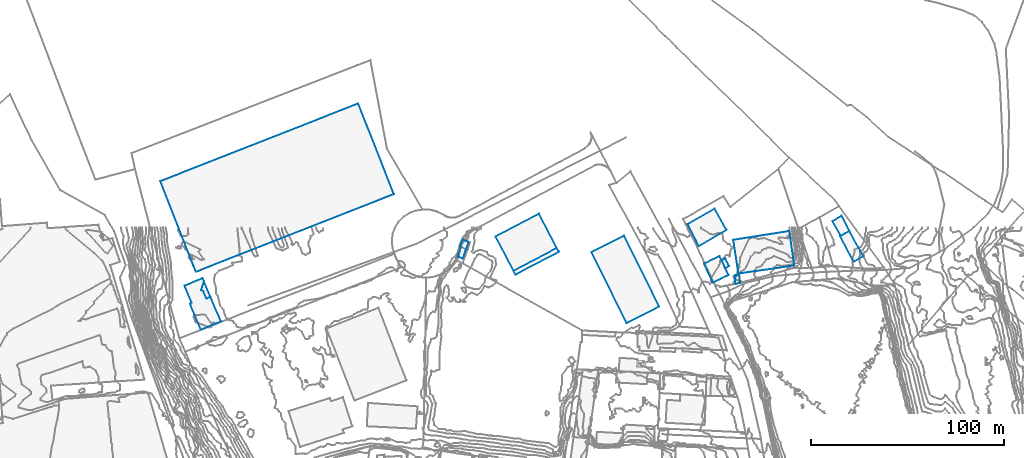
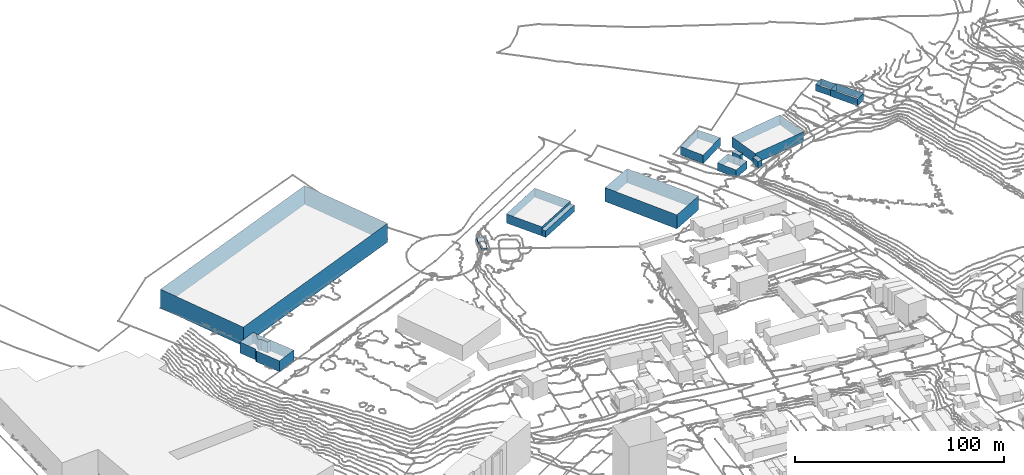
# Not in any storey, part 66 of 419: 14 walls.
"""IFC2X3 model written with IfcOpenShell, lengths in metres."""

from ifc_helpers import new_model, si_unit, frame, origin_with_axes, place, context, subcontext, project, faceted_brep, element, save


model = new_model("IFC2X3")

# Units and contexts
model_context = context("Model", 3, precision=1e-05, world=origin_with_axes())
body_context = subcontext(model_context, "Body", "Model", "MODEL_VIEW")
ifc_project = project(units=[si_unit("AREAUNIT", "SQUARE_METRE"), si_unit("LENGTHUNIT", "METRE")], contexts=[model_context])

# Walls
wall_1_placement = place(None, frame((662.4920204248, 1027.9976909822, 61.445799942), z_axis=(0.0, 0.0, 1.0), x_axis=(1.0, 0.0, 0.0)))
element("IfcWall", 1, at=wall_1_placement, Name="Mur 0", context=body_context, shape_type="Brep", body=[
    faceted_brep([(0.0, 0.0, 4.054200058), (4.7999999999, 2.6000000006, 4.054200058), (0.0, 0.0, 0.0), (4.7999999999, 2.6000000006, 0.0), (7.1, -13.3999999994, 4.054200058), (7.1, -13.3999999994, 0.0), (12.0, -10.5, 4.054200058), (12.0, -10.5, 0.0)], [[[0, 1, 2]], [[2, 1, 3]], [[4, 0, 5]], [[5, 0, 2]], [[1, 6, 3]], [[3, 6, 7]], [[6, 4, 7]], [[7, 4, 5]]]),
])
wall_2_placement = place(None, frame((600.8920204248, 1015.5976909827, 52.0179985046), z_axis=(0.0, 0.0, 1.0), x_axis=(1.0, 0.0, 0.0)))
element("IfcWall", 2, at=wall_2_placement, Name="Mur 0", context=body_context, shape_type="Brep", body=[
    faceted_brep([(3.8999999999, -3.2000000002, 6.0), (1.8999999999, -4.2999999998, 6.0), (3.8999999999, -3.2000000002, 0.0), (1.8999999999, -4.2999999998, 0.0), (2.0, 0.7000000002, 6.0), (2.0, 0.7000000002, 0.0), (0.0, 0.0, 6.0), (0.0, 0.0, 0.0)], [[[0, 1, 2]], [[2, 1, 3]], [[4, 0, 5]], [[5, 0, 2]], [[1, 6, 3]], [[3, 6, 7]], [[6, 4, 7]], [[7, 4, 5]]]),
])
wall_3_placement = place(None, frame((607.8920204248, 1007.5976909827, 53.5594993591), z_axis=(0.0, 0.0, 1.0), x_axis=(1.0, 0.0, 0.0)))
element("IfcWall", 3, at=wall_3_placement, Name="Mur 0", context=body_context, shape_type="Brep", body=[
    faceted_brep([(2.7, -3.9000000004, 3.9405006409), (0.2, -4.5, 3.9405006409), (2.7, -3.9000000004, 0.0), (0.2, -4.5, 0.0), (2.2, 0.2000000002, 3.9405006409), (2.2, 0.2000000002, 0.0), (0.0, 0.0, 3.9405006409), (0.0, 0.0, 0.0)], [[[0, 1, 2]], [[2, 1, 3]], [[4, 0, 5]], [[5, 0, 2]], [[1, 6, 3]], [[3, 6, 7]], [[6, 4, 7]], [[7, 4, 5]]]),
])
wall_4_placement = place(None, frame((492.8920204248, 1009.9976909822, 50.3296007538), z_axis=(0.0, 0.0, 1.0), x_axis=(1.0, 0.0, 0.0)))
element("IfcWall", 4, at=wall_4_placement, Name="Mur 0", context=body_context, shape_type="Brep", body=[
    faceted_brep([(1.0, -2.0, 3.8703992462), (0.0, 0.0, 3.8703992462), (1.0, -2.0, 0.0), (0.0, 0.0, 0.0), (23.6, 9.8000000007, 3.8703992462), (23.6, 9.8000000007, 0.0), (22.5, 11.8000000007, 3.8703992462), (22.5, 11.8000000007, 0.0)], [[[0, 1, 2]], [[2, 1, 3]], [[4, 0, 5]], [[5, 0, 2]], [[1, 6, 3]], [[3, 6, 7]], [[6, 4, 7]], [[7, 4, 5]]]),
])
wall_5_placement = place(None, frame((322.0920204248, 1002.1976909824, 46.5999984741), z_axis=(0.0, 0.0, 1.0), x_axis=(1.0, 0.0, 0.0)))
element("IfcWall", 5, at=wall_5_placement, Name="Mur 0", context=body_context, shape_type="Brep", body=[
    faceted_brep([(11.4, -6.5999999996, 6.4000015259), (13.5, -5.7999999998, 6.4000015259), (11.4, -6.5999999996, 0.0), (13.5, -5.7999999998, 0.0), (9.8, -3.0, 6.4000015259), (9.8, -3.0, 0.0), (8.6, -2.2999999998, 6.4000015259), (8.6, -2.2999999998, 0.0), (10.1, 2.2000000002, 6.4000015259), (10.1, 2.2000000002, 0.0), (9.4, 3.9000000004, 6.4000015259), (9.4, 3.9000000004, 0.0), (0.0, 0.0, 6.4000015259), (0.0, 0.0, 0.0), (3.7, -8.7999999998, 6.4000015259), (3.7, -8.7999999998, 0.0), (3.0, -9.2999999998, 6.4000015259), (3.0, -9.2999999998, 0.0), (3.1, -10.2000000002, 6.4000015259), (3.1, -10.2000000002, 0.0), (8.5, -22.8999999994, 6.4000015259), (8.5, -22.8999999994, 0.0), (18.9, -18.5, 6.4000015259), (18.9, -18.5, 0.0)], [[[0, 1, 2]], [[2, 1, 3]], [[4, 0, 5]], [[5, 0, 2]], [[6, 4, 7]], [[7, 4, 5]], [[8, 6, 9]], [[9, 6, 7]], [[10, 8, 11]], [[11, 8, 9]], [[12, 10, 13]], [[13, 10, 11]], [[14, 12, 15]], [[15, 12, 13]], [[16, 14, 17]], [[17, 14, 15]], [[18, 16, 19]], [[19, 16, 17]], [[20, 18, 21]], [[21, 18, 19]], [[1, 22, 3]], [[3, 22, 23]], [[22, 20, 23]], [[23, 20, 21]]]),
])
wall_6_placement = place(None, frame((330.6920204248, 999.8976909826, 46.5999984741), z_axis=(0.0, 0.0, 1.0), x_axis=(1.0, 0.0, 0.0)))
element("IfcWall", 6, at=wall_6_placement, Name="Mur 0", context=body_context, shape_type="Brep", body=[
    faceted_brep([(0.0, 0.0, 6.3000015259), (1.5, 4.5, 6.3000015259), (0.0, 0.0, 0.0), (1.5, 4.5, 0.0), (1.2000000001, -0.7000000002, 6.3000015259), (1.2000000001, -0.7000000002, 0.0), (2.8, -4.2999999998, 6.3000015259), (2.8, -4.2999999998, 0.0), (4.9, -3.5, 6.3000015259), (4.9, -3.5, 0.0)], [[[0, 1, 2]], [[2, 1, 3]], [[4, 0, 5]], [[5, 0, 2]], [[6, 4, 7]], [[7, 4, 5]], [[1, 8, 3]], [[3, 8, 9]], [[8, 6, 9]], [[9, 6, 7]]]),
])
wall_7_placement = place(None, frame((483.5920204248, 1027.7976909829, 50.3763996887), z_axis=(0.0, 0.0, 1.0), x_axis=(1.0, 0.0, 0.0)))
element("IfcWall", 7, at=wall_7_placement, Name="Mur 0", context=body_context, shape_type="Brep", body=[
    faceted_brep([(31.8, -6.0, 5.3236003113), (9.3, -17.8000000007, 5.3236003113), (31.8, -6.0, 0.0), (9.3, -17.8000000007, 0.0), (22.5, 11.7999999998, 5.3236003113), (22.5, 11.7999999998, 0.0), (0.0, 0.0, 5.3236003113), (0.0, 0.0, 0.0)], [[[0, 1, 2]], [[2, 1, 3]], [[4, 0, 5]], [[5, 0, 2]], [[1, 6, 3]], [[3, 6, 7]], [[6, 4, 7]], [[7, 4, 5]]]),
])
wall_8_placement = place(None, frame((583.3920204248, 1034.1976909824, 51.1739997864), z_axis=(0.0, 0.0, 1.0), x_axis=(1.0, 0.0, 0.0)))
element("IfcWall", 8, at=wall_8_placement, Name="Mur 0", context=body_context, shape_type="Brep", body=[
    faceted_brep([(20.1, -3.0, 4.9260002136), (5.7, -11.5, 4.9260002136), (20.1, -3.0, 0.0), (5.7, -11.5, 0.0), (13.8999999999, 8.0, 4.9260002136), (13.8999999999, 8.0, 0.0), (0.0, 0.0, 4.9260002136), (0.0, 0.0, 0.0)], [[[0, 1, 2]], [[2, 1, 3]], [[4, 0, 5]], [[5, 0, 2]], [[1, 6, 3]], [[3, 6, 7]], [[6, 4, 7]], [[7, 4, 5]]]),
])
wall_9_placement = place(None, frame((606.9920204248, 1025.9976909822, 52.4879997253), z_axis=(0.0, 0.0, 1.0), x_axis=(1.0, 0.0, 0.0)))
element("IfcWall", 9, at=wall_9_placement, Name="Mur 0", context=body_context, shape_type="Brep", body=[
    faceted_brep([(2.7, -17.5, 5.9120002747), (0.0, 0.0, 5.9120002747), (2.7, -17.5, 0.0), (0.0, 0.0, 0.0), (31.7, -13.2999999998, 5.9120002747), (31.7, -13.2999999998, 0.0), (29.1, 4.6000000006, 5.9120002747), (29.1, 4.6000000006, 0.0)], [[[0, 1, 2]], [[2, 1, 3]], [[4, 0, 5]], [[5, 0, 2]], [[1, 6, 3]], [[3, 6, 7]], [[6, 4, 7]], [[7, 4, 5]]]),
])
wall_10_placement = place(None, frame((309.5920204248, 1056.4976909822, 44.3300018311), z_axis=(0.0, 0.0, 1.0), x_axis=(1.0, 0.0, 0.0)))
element("IfcWall", 10, at=wall_10_placement, Name="Mur 0", context=body_context, shape_type="Brep", body=[
    faceted_brep([(18.4, -47.0999999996, 10.9699981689), (0.0, 0.0, 10.9699981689), (18.4, -47.0999999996, 0.0), (0.0, 0.0, 0.0), (121.2, -6.6999999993, 10.9699981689), (121.2, -6.6999999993, 0.0), (102.7, 40.3000000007, 10.9699981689), (102.7, 40.3000000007, 0.0)], [[[0, 1, 2]], [[2, 1, 3]], [[4, 0, 5]], [[5, 0, 2]], [[1, 6, 3]], [[3, 6, 7]], [[6, 4, 7]], [[7, 4, 5]]]),
])
wall_11_placement = place(None, frame((591.7920204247, 1013.6976909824, 51.6282003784), z_axis=(0.0, 0.0, 1.0), x_axis=(1.0, 0.0, 0.0)))
element("IfcWall", 11, at=wall_11_placement, Name="Mur 0", context=body_context, shape_type="Brep", body=[
    faceted_brep([(12.8, -5.8999999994, 4.5717996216), (4.7000000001, -9.7999999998, 4.5717996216), (12.8, -5.8999999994, 0.0), (4.7000000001, -9.7999999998, 0.0), (8.1000000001, 3.9000000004, 4.5717996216), (8.1000000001, 3.9000000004, 0.0), (0.0, 0.0, 4.5717996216), (0.0, 0.0, 0.0)], [[[0, 1, 2]], [[2, 1, 3]], [[4, 0, 5]], [[5, 0, 2]], [[1, 6, 3]], [[3, 6, 7]], [[6, 4, 7]], [[7, 4, 5]]]),
])
wall_12_placement = place(None, frame((533.3920204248, 1019.6976909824, 50.3425988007), z_axis=(0.0, 0.0, 1.0), x_axis=(1.0, 0.0, 0.0)))
element("IfcWall", 12, at=wall_12_placement, Name="Mur 0", context=body_context, shape_type="Brep", body=[
    faceted_brep([(18.2999999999, -36.7999999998, 8.1574011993), (0.0, 0.0, 8.1574011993), (18.2999999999, -36.7999999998, 0.0), (0.0, 0.0, 0.0), (35.2, -28.2999999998, 8.1574011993), (35.2, -28.2999999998, 0.0), (16.8999999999, 8.4000000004, 8.1574011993), (16.8999999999, 8.4000000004, 0.0)], [[[0, 1, 2]], [[2, 1, 3]], [[4, 0, 5]], [[5, 0, 2]], [[1, 6, 3]], [[3, 6, 7]], [[6, 4, 7]], [[7, 4, 5]]]),
])
wall_13_placement = place(None, frame((658.4920204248, 1035.6976909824, 61.3829990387), z_axis=(0.0, 0.0, 1.0), x_axis=(1.0, 0.0, 0.0)))
element("IfcWall", 13, at=wall_13_placement, Name="Mur 0", context=body_context, shape_type="Brep", body=[
    faceted_brep([(4.7999999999, 2.7999999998, 3.7170009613), (8.7999999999, -5.0999999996, 3.7170009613), (4.7999999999, 2.7999999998, 0.0), (8.7999999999, -5.0999999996, 0.0), (0.0, 0.0, 3.7170009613), (0.0, 0.0, 0.0), (4.2999999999, -7.5, 3.7170009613), (4.2999999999, -7.5, 0.0)], [[[0, 1, 2]], [[2, 1, 3]], [[4, 0, 5]], [[5, 0, 2]], [[1, 6, 3]], [[3, 6, 7]], [[6, 4, 7]], [[7, 4, 5]]]),
])
wall_14_placement = place(None, frame((463.8920204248, 1017.2976909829, 47.6540006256), z_axis=(0.0, 0.0, 1.0), x_axis=(1.0, 0.0, 0.0)))
element("IfcWall", 14, at=wall_14_placement, Name="Mur 0", context=body_context, shape_type="Brep", body=[
    faceted_brep([(1.2, 5.2999999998, 1.1459993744), (2.5, 8.7999999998, 1.1459993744), (1.2, 5.2999999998, 0.0), (2.5, 8.7999999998, 0.0), (1.7999999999, 5.0999999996, 1.1459993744), (1.7999999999, 5.0999999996, 0.0), (0.0, 0.0, 1.1459993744), (0.0, 0.0, 0.0), (2.6, -0.9000000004, 1.1459993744), (2.6, -0.9000000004, 0.0), (5.7, 7.5999999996, 1.1459993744), (5.7, 7.5999999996, 0.0)], [[[0, 1, 2]], [[2, 1, 3]], [[4, 0, 5]], [[5, 0, 2]], [[6, 4, 7]], [[7, 4, 5]], [[8, 6, 9]], [[9, 6, 7]], [[1, 10, 3]], [[3, 10, 11]], [[10, 8, 11]], [[11, 8, 9]]]),
])

save(model, "model.ifc")
